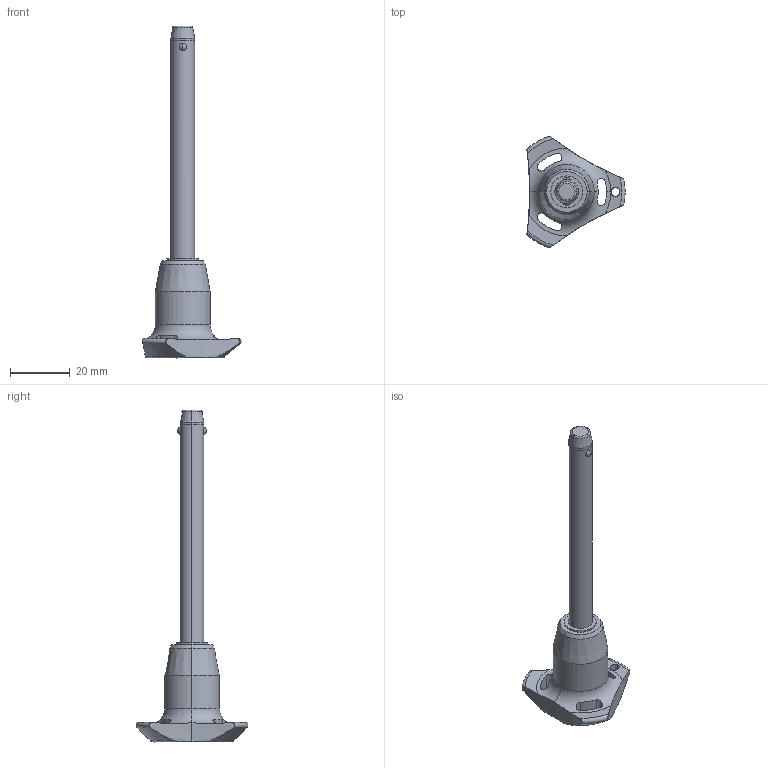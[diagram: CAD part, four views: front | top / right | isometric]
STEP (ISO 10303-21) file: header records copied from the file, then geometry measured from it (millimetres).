
FILE_DESCRIPTION (( 'STEP AP203' ), '1' );
FILE_NAME ('QR1716.M08-070-T.step', '2025-11-13T10:31:10', ( '' ), ( '' ), 'SwSTEP 2.0', 'SolidWorks 2019', '' );
FILE_SCHEMA (( 'CONFIG_CONTROL_DESIGN' ));
Length unit declared in the file: millimetre
Products named in the file (1): QR1716.M08-070-T
Bounding box: 33 x 37.51 x 111.5 mm (x, y, z)
Volume: 13496.3 mm3; surface area: 5743.2 mm2
Topology: 1 solids, 1 shells, 68 faces, 180 edges, 113 vertices
Faces by surface type: cylinder 32, cone 14, torus 11, sphere 6, plane 5
Entity records: 2811 total; most frequent: CARTESIAN_POINT 1071, ORIENTED_EDGE 360, DIRECTION 347, EDGE_CURVE 180, AXIS2_PLACEMENT_3D 154, VERTEX_POINT 113, CIRCLE 85, EDGE_LOOP 75
